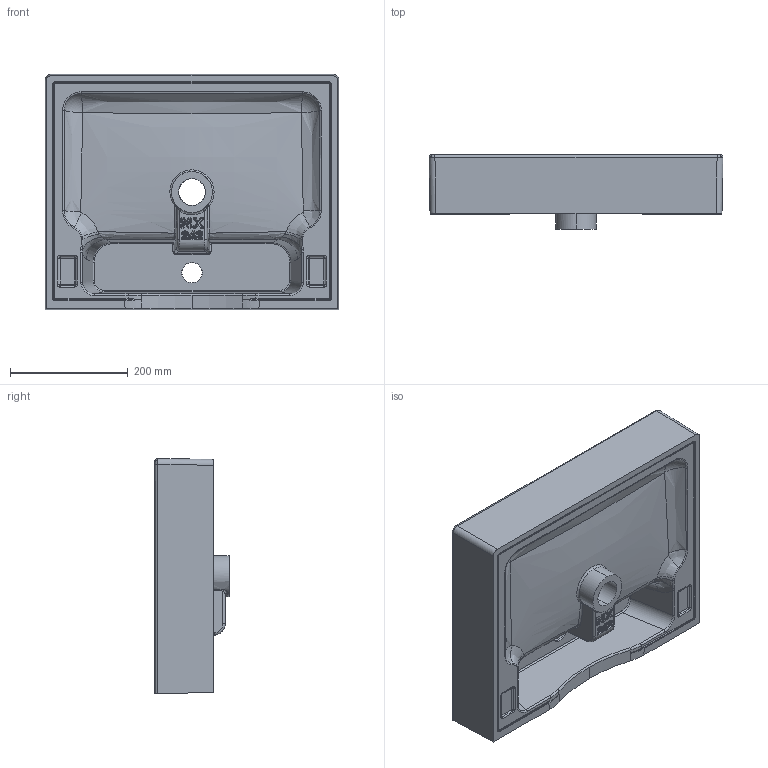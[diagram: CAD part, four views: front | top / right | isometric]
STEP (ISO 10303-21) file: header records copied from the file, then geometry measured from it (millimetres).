
FILE_DESCRIPTION (( 'STEP AP203' ), '1' );
FILE_NAME ('NX242 3D.STEP', '2022-04-05T14:26:02', ( '' ), ( '' ), 'SwSTEP 2.0', 'SolidWorks 2021', '' );
FILE_SCHEMA (( 'CONFIG_CONTROL_DESIGN' ));
Products named in the file (1): NX242 3D
Bounding box: 499.83 x 126 x 399.92 mm (x, y, z)
Volume: 7175025.5 mm3; surface area: 826248.7 mm2
Topology: 2 solids, 3 shells, 547 faces, 1333 edges, 726 vertices
Faces by surface type: bspline 240, cylinder 155, torus 92, plane 50, sphere 8, cone 2
Entity records: 34885 total; most frequent: CARTESIAN_POINT 24146, ORIENTED_EDGE 2520, DIRECTION 1922, EDGE_CURVE 1260, AXIS2_PLACEMENT_3D 820, VERTEX_POINT 726, EDGE_LOOP 560, ADVANCED_FACE 547
